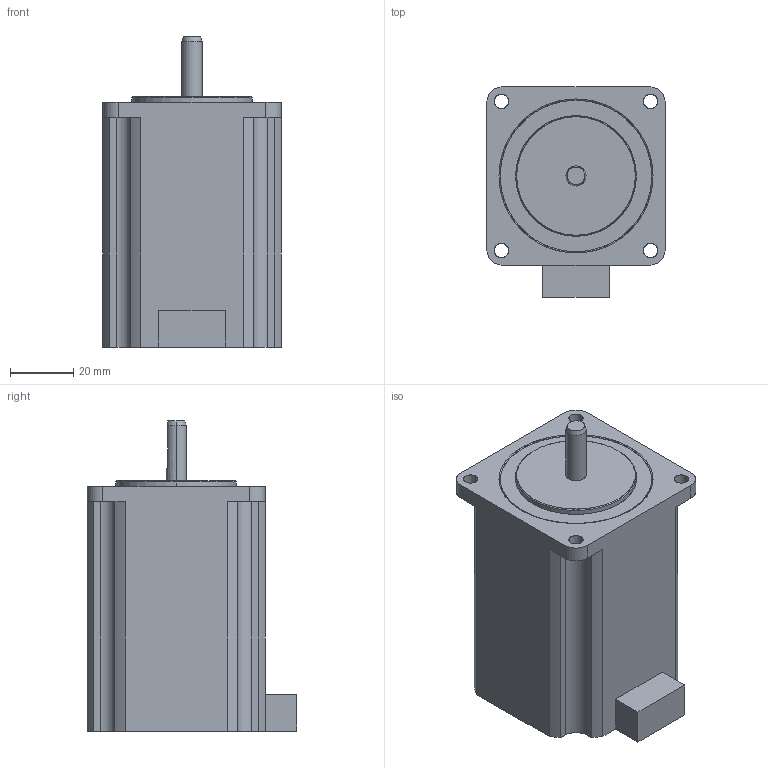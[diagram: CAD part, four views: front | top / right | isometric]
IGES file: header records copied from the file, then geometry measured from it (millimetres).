
Start section: SolidWorks IGES file using analytic representation for surfaces
Global section: file name: \\MCADserv\kari\7666\Plexmotion New 3D data\PMSA-U56D5_3D\PMSA-U56D5_3D.IGS; native system: SolidWorks 2014; preprocessor: SolidWorks 2014; author: user0016; date: 161115.135251; units: millimetre
Bounding box: 56.4 x 66.4 x 98.1 mm (x, y, z)
Surface area: 23728.3 mm2 (no closed solid volume)
Topology: 0 solids, 0 shells, 62 faces, 1002 edges, 1002 vertices
Faces by surface type: revolution 35, bspline 27
